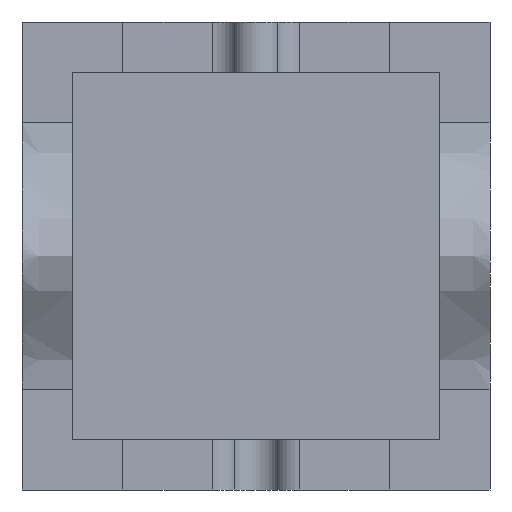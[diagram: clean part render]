
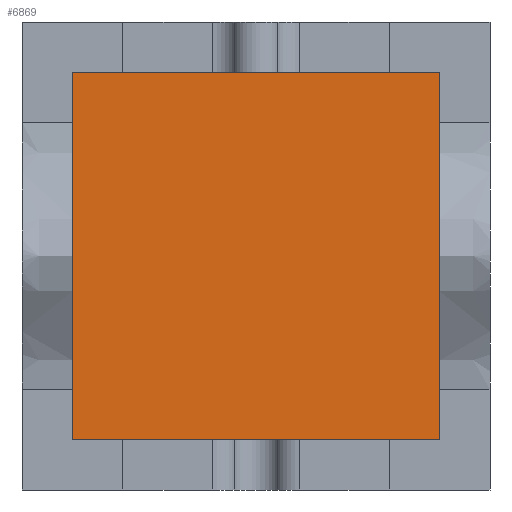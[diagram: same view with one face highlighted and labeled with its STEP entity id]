
A CAD part, front view. The second image highlights one B-rep face of the part: STEP entity #6869.
In plain terms, the highlighted planar face has unit normal (0, -1, 0).
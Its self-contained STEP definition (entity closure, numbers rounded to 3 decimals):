
#6743=CARTESIAN_POINT('Vertex',(-20.,-30.,-20.)) ;
#6748=CARTESIAN_POINT('Line Origine',(-20.,-30.,53.)) ;
#6752=CARTESIAN_POINT('Vertex',(-20.,-30.,126.)) ;
#6779=CARTESIAN_POINT('Line Origine',(53.,-30.,126.)) ;
#6783=CARTESIAN_POINT('Vertex',(126.,-30.,126.)) ;
#6810=CARTESIAN_POINT('Line Origine',(126.,-30.,53.)) ;
#6814=CARTESIAN_POINT('Vertex',(126.,-30.,-20.)) ;
#6841=CARTESIAN_POINT('Line Origine',(53.,-30.,-20.)) ;
#6858=CARTESIAN_POINT('Axis2P3D Location',(0.,-30.,0.)) ;
#6749=DIRECTION('Vector Direction',(0.,0.,-1.)) ;
#6780=DIRECTION('Vector Direction',(1.,0.,0.)) ;
#6811=DIRECTION('Vector Direction',(0.,0.,1.)) ;
#6842=DIRECTION('Vector Direction',(-1.,0.,0.)) ;
#6859=DIRECTION('Axis2P3D Direction',(0.,1.,0.)) ;
#6860=DIRECTION('Axis2P3D XDirection',(-1.,0.,0.)) ;
#6861=AXIS2_PLACEMENT_3D('Plane Axis2P3D',#6858,#6859,#6860) ;
#6864=ORIENTED_EDGE('',*,*,#6845,.F.) ;
#6865=ORIENTED_EDGE('',*,*,#6816,.F.) ;
#6866=ORIENTED_EDGE('',*,*,#6785,.F.) ;
#6867=ORIENTED_EDGE('',*,*,#6754,.F.) ;
#6750=VECTOR('Line Direction',#6749,1.) ;
#6781=VECTOR('Line Direction',#6780,1.) ;
#6812=VECTOR('Line Direction',#6811,1.) ;
#6843=VECTOR('Line Direction',#6842,1.) ;
#6869=ADVANCED_FACE('Cavity-molde',(#6868),#6862,.F.) ;
#6754=EDGE_CURVE('',#6744,#6753,#6751,.F.) ;
#6785=EDGE_CURVE('',#6753,#6784,#6782,.T.) ;
#6816=EDGE_CURVE('',#6784,#6815,#6813,.F.) ;
#6845=EDGE_CURVE('',#6815,#6744,#6844,.T.) ;
#6863=EDGE_LOOP('',(#6864,#6865,#6866,#6867)) ;
#6868=FACE_OUTER_BOUND('',#6863,.T.) ;
#6751=LINE('Line',#6748,#6750) ;
#6782=LINE('Line',#6779,#6781) ;
#6813=LINE('Line',#6810,#6812) ;
#6844=LINE('Line',#6841,#6843) ;
#6862=PLANE('',#6861) ;
#6744=VERTEX_POINT('',#6743) ;
#6753=VERTEX_POINT('',#6752) ;
#6784=VERTEX_POINT('',#6783) ;
#6815=VERTEX_POINT('',#6814) ;
